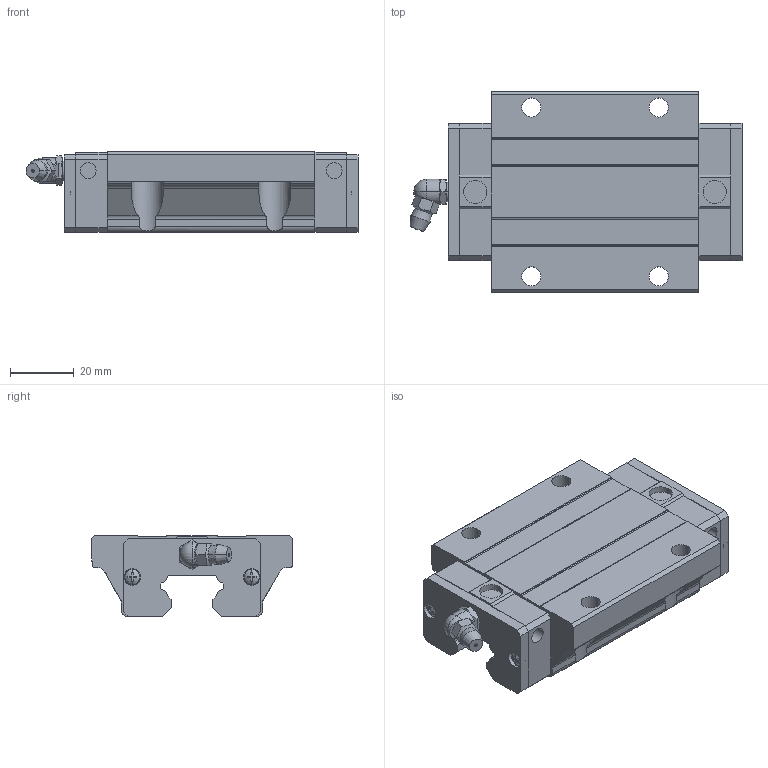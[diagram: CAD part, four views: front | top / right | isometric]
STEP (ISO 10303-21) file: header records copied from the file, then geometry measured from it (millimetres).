
FILE_DESCRIPTION(('starvars output'),'2;1');
FILE_NAME('cv20190626222816000041462.stp','22:28:16 2019/06/26',( 'Thomas Industrial Network Germany GmbH'),( 'Thomas Industrial Network Germany GmbH'),'unknown preprocess','ACIS' ,'unknown authorization');
FILE_SCHEMA(('CONFIG_CONTROL_DESIGN {UNKNOWN IMPLEMENTATION LEVEL}'));
Length unit declared in the file: millimetre
Products named in the file (10): PRODUCT_ID_1; PRODUCT_ID_2; PRODUCT_ID_3; PRODUCT_ID_4; PRODUCT_ID_5; PRODUCT_ID_6; PRODUCT_ID_7; PRODUCT_ID_8; PRODUCT_ID_9; PRODUCT_ID_10
Bounding box: 104.2 x 63 x 25.4 mm (x, y, z)
Volume: 96216.2 mm3; surface area: 28553.7 mm2
Topology: 10 solids, 10 shells, 400 faces, 1061 edges, 690 vertices
Faces by surface type: plane 265, cylinder 83, cone 40, sphere 12
Entity records: 12140 total; most frequent: CARTESIAN_POINT 2133, ORIENTED_EDGE 2114, DIRECTION 1648, EDGE_CURVE 1057, VERTEX_POINT 690, VECTOR 666, LINE 666, AXIS2_PLACEMENT_3D 491
